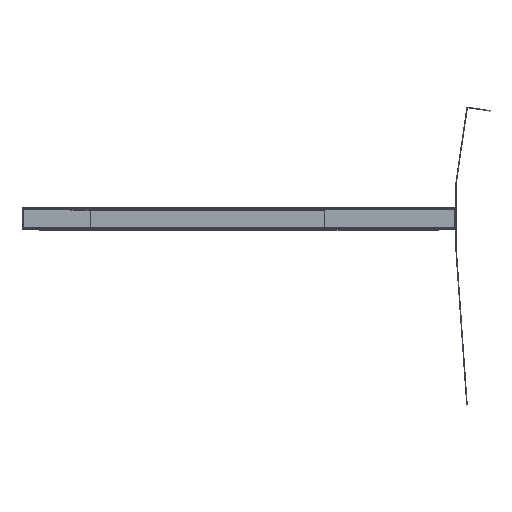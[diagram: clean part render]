
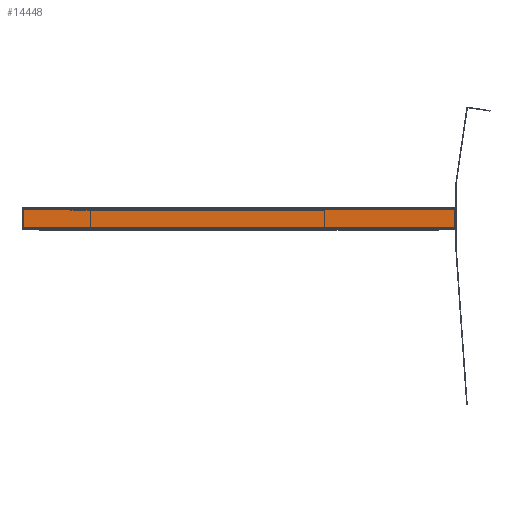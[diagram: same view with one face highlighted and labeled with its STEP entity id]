
A CAD part, front view. The second image highlights one B-rep face of the part: STEP entity #14448.
In plain terms, the highlighted planar face has unit normal (0, -1, 0).
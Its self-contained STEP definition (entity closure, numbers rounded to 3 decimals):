
#1122=FACE_OUTER_BOUND($,#1872,.T.);
#1872=EDGE_LOOP($,(#9480,#9481,#9482,#9483));
#2703=LINE($,#21321,#4163);
#2708=LINE($,#21333,#4168);
#2720=LINE($,#21359,#4180);
#2721=LINE($,#21362,#4181);
#4163=VECTOR($,#17030,17.083);
#4168=VECTOR($,#17045,400.);
#4180=VECTOR($,#17077,400.);
#4181=VECTOR($,#17082,17.083);
#5604=VERTEX_POINT($,#21312);
#5605=VERTEX_POINT($,#21316);
#5607=VERTEX_POINT($,#21332);
#5611=VERTEX_POINT($,#21358);
#7072=EDGE_CURVE($,#5604,#5605,#2703,.T.);
#7078=EDGE_CURVE($,#5607,#5604,#2708,.T.);
#7091=EDGE_CURVE($,#5611,#5605,#2720,.T.);
#7093=EDGE_CURVE($,#5607,#5611,#2721,.T.);
#9480=ORIENTED_EDGE($,*,*,#7091,.T.);
#9481=ORIENTED_EDGE($,*,*,#7072,.F.);
#9482=ORIENTED_EDGE($,*,*,#7078,.F.);
#9483=ORIENTED_EDGE($,*,*,#7093,.T.);
#13244=PLANE($,#15281);
#14448=ADVANCED_FACE($,(#1122),#13244,.T.);
#15281=AXIS2_PLACEMENT_3D($,#21361,#17080,#17081);
#17030=DIRECTION($,(0.,0.,1.));
#17045=DIRECTION($,(-1.,0.,0.));
#17077=DIRECTION($,(-1.,0.,0.));
#17080=DIRECTION('center_axis',(0.,-1.,0.));
#17081=DIRECTION('ref_axis',(0.,0.,1.));
#17082=DIRECTION($,(0.,0.,1.));
#21312=CARTESIAN_POINT('',(-200.,-500.,-8.542));
#21316=CARTESIAN_POINT('',(-200.,-500.,8.542));
#21321=CARTESIAN_POINT($,(-200.,-500.,-8.542));
#21332=CARTESIAN_POINT('',(200.,-500.,-8.542));
#21333=CARTESIAN_POINT($,(200.,-500.,-8.542));
#21358=CARTESIAN_POINT('',(200.,-500.,8.542));
#21359=CARTESIAN_POINT($,(200.,-500.,8.542));
#21361=CARTESIAN_POINT('Origin',(200.,-500.,-8.542));
#21362=CARTESIAN_POINT($,(200.,-500.,-8.542));
